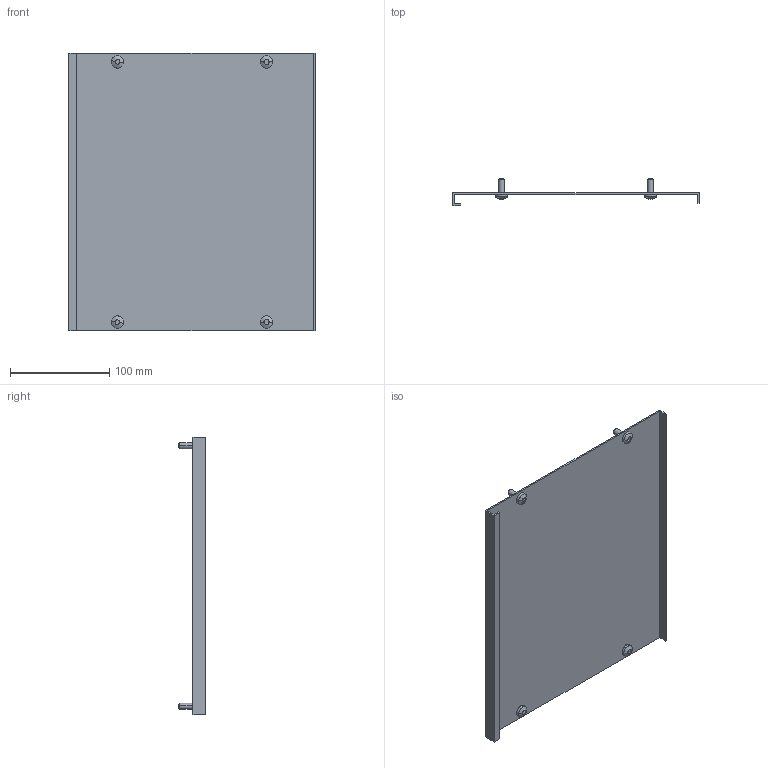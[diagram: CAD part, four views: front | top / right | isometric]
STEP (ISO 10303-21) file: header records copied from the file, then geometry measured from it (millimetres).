
FILE_DESCRIPTION (( 'STEP AP214' ), '1' );
FILE_NAME ('FO-00-PVS-025-040 Ïëàñòðîí ãëóõîé âíóòðåííèé 250õ400.STEP', '2025-09-29T19:02:59', ( '' ), ( '' ), 'SwSTEP 2.0', 'SolidWorks 2023', '' );
FILE_SCHEMA (( 'AUTOMOTIVE_DESIGN' ));
Length unit declared in the file: millimetre
Products named in the file (3): FO-00-PVS-025-040 Пластрон глухой внутренний 250х400; Винт M6x16 25-40 IEK
Assembly tree (3 placements, depth 2):
  FO-00-PVS-025-040 Пластрон глухой внутренний 250х400
    FO-00-PVS-025-040 Пластрон глухой внутренний 250х400
    Винт M6x16 25-40 IEK  x2
Bounding box: 248 x 27 x 279 mm (x, y, z)
Volume: 117513.5 mm3; surface area: 156933.5 mm2
Topology: 5 solids, 5 shells, 150 faces, 392 edges, 256 vertices
Faces by surface type: cylinder 88, plane 42, cone 12, bspline 8
Entity records: 3233 total; most frequent: CARTESIAN_POINT 724, ORIENTED_EDGE 512, DIRECTION 500, EDGE_CURVE 256, AXIS2_PLACEMENT_3D 180, VERTEX_POINT 168, LINE 140, VECTOR 140
